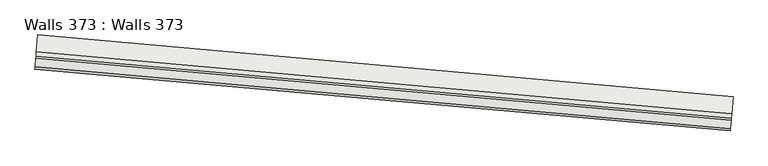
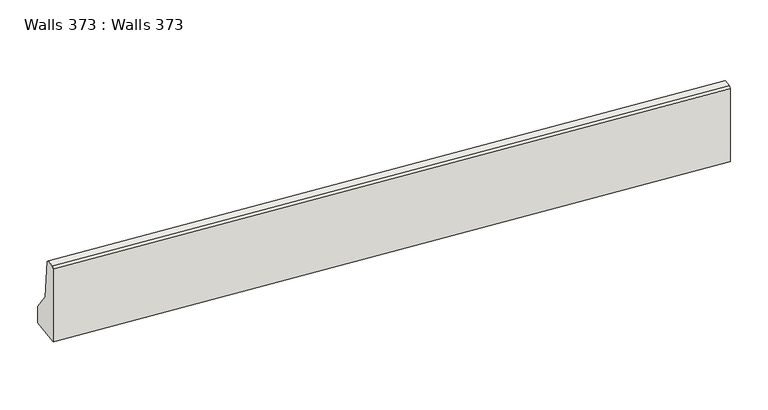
"""IFC4 building model written with IfcOpenShell, lengths in millimetres: wall geometry, Walls 373 : Walls 373."""

from ifc_helpers import new_model, si_unit, frame, origin, place, context, project, spatial, polyline, outline, extrude, source, transform, mapped, element, save


def walls_373_walls_373_2c0543db(model_context):
    return source(origin(), model_context, "Body", "SweptSolid", [
        extrude(outline(polyline([(637180.0, 400.0), (637430.0, 199.9999999), (637935.0, 150.0), (637960.0, 124.9999999), (637960.0, 24.9999999), (637935.0, 0.0), (636960.0, 0.0), (636960.0, 400.0), (637180.0, 400.0)])), frame((-658732.2485463, -420394.8552275, 0.0), z_axis=(-0.9960550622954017, 0.08873732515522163, 0.0), x_axis=(0.0, 0.0, 1.0)), (0.0, 0.0, 1.0), 8150.0000001),
    ])


if __name__ == "__main__":
    model = new_model("IFC4")
    model_context = context("Model", 3, world=origin())
    ifc_project = project(units=[si_unit("LENGTHUNIT", "METRE", prefix="MILLI")], contexts=[model_context])
    site = spatial("IfcSite", under=ifc_project)
    building = spatial("IfcBuilding", under=site)
    placement = place(None, origin())
    walls_373_walls_373_shape = walls_373_walls_373_2c0543db(model_context)
    element("IfcWall", 1, ObjectType="Walls 373 : Walls 373", at=placement, inside=building, context=model_context, shape_type="MappedRepresentation", body=[
        mapped(walls_373_walls_373_shape, transform((0.0, 0.0, 0.0), x_axis=(1.0, 0.0, 0.0), y_axis=(0.0, 1.0, 0.0), z_axis=(0.0, 0.0, 1.0))),
    ])
    save(model, "model.ifc")
